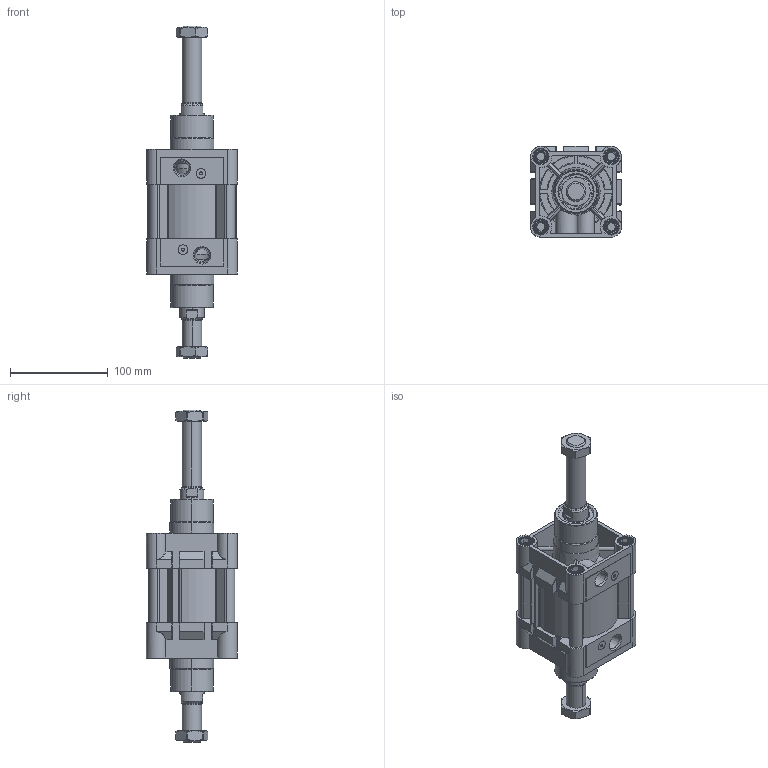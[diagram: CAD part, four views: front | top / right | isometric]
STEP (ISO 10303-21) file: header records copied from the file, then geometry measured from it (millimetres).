
FILE_DESCRIPTION (( 'STEP AP203' ), '1' );
FILE_NAME ('KDNT80X0CIFTMILLI-STROK AYARLI-CYLINDER.STEP', '2014-07-09T05:53:28', ( 'user' ), ( '' ), 'SwSTEP 2.0', 'SolidWorks 2013', '' );
FILE_SCHEMA (( 'CONFIG_CONTROL_DESIGN' ));
Length unit declared in the file: millimetre
Products named in the file (18): ORTA PÝSTON 80 ÇÝFT MÝLLÝ; YASTIKLAMA VÝDASI O-RÝNG 80; PÝSTON KEÇESÝ 80; PUL 80; YATAKLAMA BANDI 80; SOMUN 80; MIKNATIS 80; CIVATA 80; Piston Mili 80x0; SAPLAMALI M尳 STROK AYARLI 80x0; ORTA PÝSTON O-RÝNG 80 ; 烰 KAPAK  80; KDNT80X0CIFTMILLI-STROK AYARLI-CYLINDER; ﾖN MﾝL KEﾇESﾝ 80; YASTIKLAMA KEÇESÝ 80; KDNT 80X0 BORU; KAPAK O-RÝNGÝ 80; YASTIKLAMA VÝDASI 80
Assembly tree (35 placements, depth 2):
  KDNT80X0CIFTMILLI-STROK AYARLI-CYLINDER
    烰 KAPAK  80  x2
    YASTIKLAMA KEÇESÝ 80  x2
    KAPAK O-RÝNGÝ 80  x2
    ORTA PÝSTON 80 ÇÝFT MÝLLÝ
    PÝSTON KEÇESÝ 80  x2
    YATAKLAMA BANDI 80
    MIKNATIS 80  x2
    Piston Mili 80x0
    ORTA PÝSTON O-RÝNG 80   x2
    ﾖN MﾝL KEﾇESﾝ 80  x2
    KDNT 80X0 BORU
    YASTIKLAMA VÝDASI 80  x2
    YASTIKLAMA VÝDASI O-RÝNG 80  x2
    PUL 80  x2
    SOMUN 80  x2
    CIVATA 80  x8
    SAPLAMALI M尳 STROK AYARLI 80x0
Bounding box: 93 x 93.3 x 340 mm (x, y, z)
Volume: 770206.8 mm3; surface area: 342646.5 mm2
Topology: 37 solids, 37 shells, 1899 faces, 4613 edges, 2880 vertices
Faces by surface type: cylinder 613, plane 610, cone 486, torus 106, bspline 48, sphere 36
Entity records: 34880 total; most frequent: CARTESIAN_POINT 8396, DIRECTION 5256, ORIENTED_EDGE 4954, EDGE_CURVE 2477, AXIS2_PLACEMENT_3D 2124, VERTEX_POINT 1564, EDGE_LOOP 1127, CIRCLE 1100
